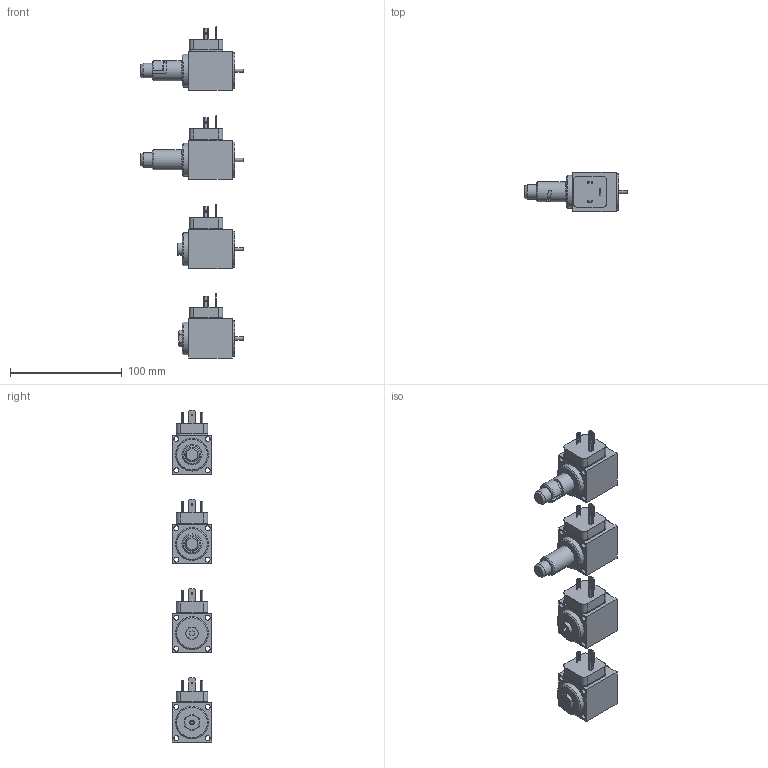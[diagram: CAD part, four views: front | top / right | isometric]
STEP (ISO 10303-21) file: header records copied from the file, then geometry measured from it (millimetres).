
FILE_DESCRIPTION(('Bauteilbeschreibung','HiCAD-Model','HiCAD-STEP-TRANSLATION','Bauteilbeschreibung'),'2;1');
FILE_NAME('K:/STEP_DXF/BEIIV.STP','2006-03-24T16:57:34+00:00',('Konstrukteur'),('Konstrukteur Firma GmbH'),'HiCAD3 V1210 STEP 1.6.2005','HiCAD3 V1210','confidential');
FILE_SCHEMA(('AUTOMOTIVE_DESIGN { 1 2 10303 214 0 1 1 1 }'));
Length unit declared in the file: millimetre
Products named in the file (29): BEIIV; BEIIV_H1; AC7C47C9; DAB12417; DAB124170; DICHTUNG; A270342B; A836CEE7; BEIIV_H3; A5293CE8; A836CEE70; D29BB232; DAB124171; DAB124172; DICHTUNG0; BEIIV_HB4_5; A86683FC; A836CEE71; DAB124173; DAB124174; DICHTUNG1; A86115F3; BEIIV_HB0; A02D9D95; DAB124175; DAB124176; DICHTUNG2; A836CEE72; F134825D
Assembly tree (28 placements, depth 5):
  BEIIV
    BEIIV_H1
      AC7C47C9
        DAB12417
        DAB124170
          DICHTUNG
        A270342B
        A836CEE7
    BEIIV_H3
      A5293CE8
        A836CEE70
        D29BB232
        DAB124171
        DAB124172
          DICHTUNG0
    BEIIV_HB4_5
      A86683FC
        A836CEE71
        DAB124173
        DAB124174
          DICHTUNG1
        A86115F3
    BEIIV_HB0
      A02D9D95
        DAB124175
        DAB124176
          DICHTUNG2
        A836CEE72
        F134825D
Bounding box: 91.8 x 35 x 297.5 mm (x, y, z)
Volume: 251460.5 mm3; surface area: 72114.8 mm2
Topology: 28 solids, 28 shells, 453 faces, 1055 edges, 711 vertices
Faces by surface type: plane 261, cylinder 155, cone 30, torus 7
Full cylindrical faces by diameter (mm): 1.5 x12, 2.5 x1, 2.9 x4, 3 x12, 4.2 x1, 4.5 x20, 6 x2, 6.8 x2, 8 x12, 11 x1, 12 x4, 12.5 x4, 13 x2, 18 x2, 29.5 x4, 32 x4
Entity records: 21579 total; most frequent: CARTESIAN_POINT 2824, DIRECTION 2220, ORIENTED_EDGE 1784, COLOUR_RGB 1361, PRESENTATION_STYLE_ASSIGNMENT 1361, OVER_RIDING_STYLED_ITEM 1345, CURVE_STYLE 892, DRAUGHTING_PRE_DEFINED_CURVE_FONT 892
